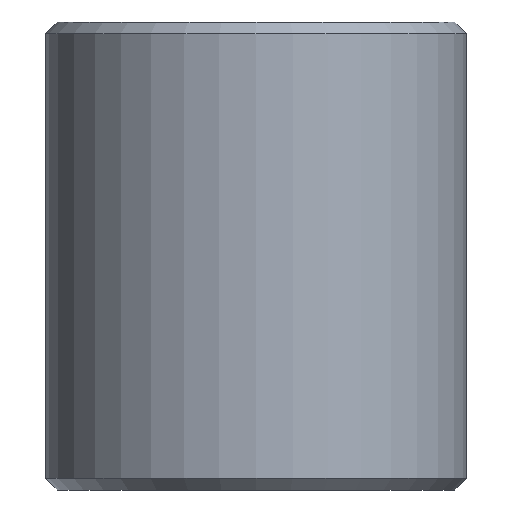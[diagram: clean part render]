
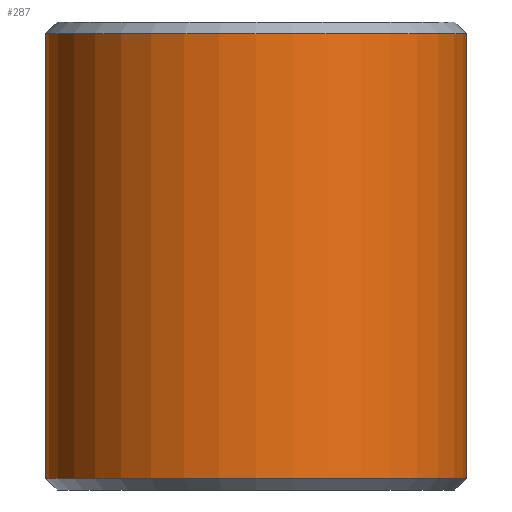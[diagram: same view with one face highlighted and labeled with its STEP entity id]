
A CAD part, front view. The second image highlights one B-rep face of the part: STEP entity #287.
In plain terms, the highlighted cylindrical face has radius 45 mm (diameter 90 mm), a partial arc.
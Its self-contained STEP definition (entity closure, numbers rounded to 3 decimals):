
#1 = DIRECTION ( 'NONE',  ( -1., 0., 0. ) ) ;
#13 = LINE ( 'NONE', #371, #134 ) ;
#17 = ORIENTED_EDGE ( 'NONE', *, *, #368, .T. ) ;
#24 = AXIS2_PLACEMENT_3D ( 'NONE', #273, #306, #445 ) ;
#30 = VERTEX_POINT ( 'NONE', #230 ) ;
#60 = EDGE_CURVE ( 'NONE', #159, #30, #141, .T. ) ;
#67 = FACE_OUTER_BOUND ( 'NONE', #354, .T. ) ;
#84 = DIRECTION ( 'NONE',  ( 0., 0., -1. ) ) ;
#93 = DIRECTION ( 'NONE',  ( 1., 0., 0. ) ) ;
#108 = LINE ( 'NONE', #245, #323 ) ;
#124 = EDGE_CURVE ( 'NONE', #159, #435, #13, .T. ) ;
#134 = VECTOR ( 'NONE', #189, 1000. ) ;
#141 = CIRCLE ( 'NONE', #264, 45. ) ;
#144 = CARTESIAN_POINT ( 'NONE',  ( 45., 0., -47.5 ) ) ;
#150 = ORIENTED_EDGE ( 'NONE', *, *, #60, .T. ) ;
#159 = VERTEX_POINT ( 'NONE', #166 ) ;
#166 = CARTESIAN_POINT ( 'NONE',  ( 45., 0., 47.5 ) ) ;
#189 = DIRECTION ( 'NONE',  ( 0., 0., -1. ) ) ;
#202 = DIRECTION ( 'NONE',  ( 0., 0., -1. ) ) ;
#206 = AXIS2_PLACEMENT_3D ( 'NONE', #312, #202, #1 ) ;
#230 = CARTESIAN_POINT ( 'NONE',  ( -45., 0., 47.5 ) ) ;
#231 = ORIENTED_EDGE ( 'NONE', *, *, #300, .T. ) ;
#245 = CARTESIAN_POINT ( 'NONE',  ( -45., 0., 50. ) ) ;
#258 = CARTESIAN_POINT ( 'NONE',  ( 0., 0., 47.5 ) ) ;
#264 = AXIS2_PLACEMENT_3D ( 'NONE', #258, #84, #93 ) ;
#273 = CARTESIAN_POINT ( 'NONE',  ( 0., 0., -47.5 ) ) ;
#287 = ADVANCED_FACE ( 'NONE', ( #67 ), #311, .T. ) ;
#300 = EDGE_CURVE ( 'NONE', #378, #435, #340, .T. ) ;
#306 = DIRECTION ( 'NONE',  ( 0., 0., 1. ) ) ;
#311 = CYLINDRICAL_SURFACE ( 'NONE', #206, 45. ) ;
#312 = CARTESIAN_POINT ( 'NONE',  ( 0., 0., 50. ) ) ;
#323 = VECTOR ( 'NONE', #387, 1000. ) ;
#340 = CIRCLE ( 'NONE', #24, 45. ) ;
#350 = CARTESIAN_POINT ( 'NONE',  ( -45., 0., -47.5 ) ) ;
#354 = EDGE_LOOP ( 'NONE', ( #372, #150, #17, #231 ) ) ;
#368 = EDGE_CURVE ( 'NONE', #30, #378, #108, .T. ) ;
#371 = CARTESIAN_POINT ( 'NONE',  ( 45., 0., 50. ) ) ;
#372 = ORIENTED_EDGE ( 'NONE', *, *, #124, .F. ) ;
#378 = VERTEX_POINT ( 'NONE', #350 ) ;
#387 = DIRECTION ( 'NONE',  ( 0., 0., -1. ) ) ;
#435 = VERTEX_POINT ( 'NONE', #144 ) ;
#445 = DIRECTION ( 'NONE',  ( 1., 0., 0. ) ) ;
